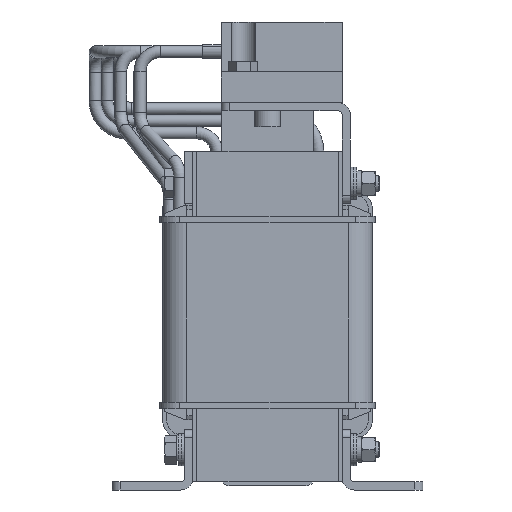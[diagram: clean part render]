
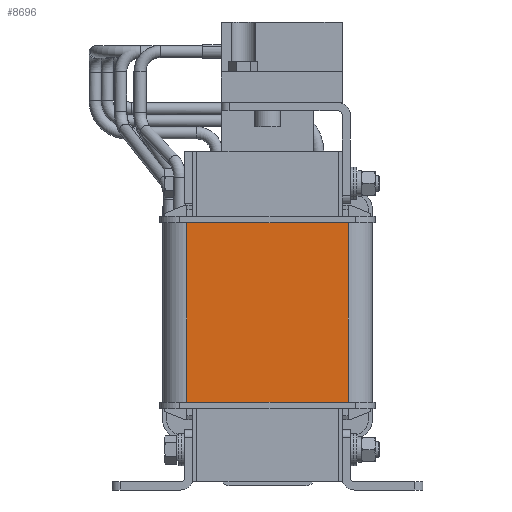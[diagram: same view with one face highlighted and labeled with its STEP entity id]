
A CAD part, left-side view. The second image highlights one B-rep face of the part: STEP entity #8696.
In plain terms, the highlighted planar face has unit normal (-1, 0, 0).
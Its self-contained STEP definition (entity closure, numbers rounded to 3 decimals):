
#8696=ADVANCED_FACE('',(#26258),#26260,.T.);
#26258=FACE_BOUND('',#26259,.T.);
#26259=EDGE_LOOP('',(#39579,#39580,#39581,#39582));
#26260=PLANE('',#26261);
#26261=AXIS2_PLACEMENT_3D('',#26262,#26263,#26264);
#26262=CARTESIAN_POINT('',(-46.523,-58.478,21.75));
#26263=DIRECTION('',(-1.,0.,0.));
#26264=DIRECTION('',(0.,0.,1.));
#39579=ORIENTED_EDGE('',*,*,#47750,.T.);
#39580=ORIENTED_EDGE('',*,*,#47758,.F.);
#39581=ORIENTED_EDGE('',*,*,#47742,.F.);
#39582=ORIENTED_EDGE('',*,*,#47759,.T.);
#47742=EDGE_CURVE('',#54072,#54065,#54074,.T.);
#47750=EDGE_CURVE('',#54087,#54085,#54088,.T.);
#47758=EDGE_CURVE('',#54065,#54085,#54098,.T.);
#47759=EDGE_CURVE('',#54072,#54087,#54099,.T.);
#54065=VERTEX_POINT('',#70785);
#54072=VERTEX_POINT('',#70801);
#54074=LINE('',#70806,#70807);
#54085=VERTEX_POINT('',#70831);
#54087=VERTEX_POINT('',#70836);
#54088=LINE('',#70837,#70838);
#54098=LINE('',#70864,#70865);
#54099=LINE('',#70867,#70868);
#70785=CARTESIAN_POINT('',(-46.523,-58.478,66.25));
#70801=CARTESIAN_POINT('',(-46.523,-18.488,66.25));
#70806=CARTESIAN_POINT('',(-46.523,-18.488,66.25));
#70807=VECTOR('',#70808,1.);
#70808=DIRECTION('',(0.,-1.,0.));
#70831=CARTESIAN_POINT('',(-46.523,-58.478,21.75));
#70836=CARTESIAN_POINT('',(-46.523,-18.488,21.75));
#70837=CARTESIAN_POINT('',(-46.523,-18.488,21.75));
#70838=VECTOR('',#70839,1.);
#70839=DIRECTION('',(0.,-1.,0.));
#70864=CARTESIAN_POINT('',(-46.523,-58.478,66.25));
#70865=VECTOR('',#70866,1.);
#70866=DIRECTION('',(0.,0.,-1.));
#70867=CARTESIAN_POINT('',(-46.523,-18.488,66.25));
#70868=VECTOR('',#70869,1.);
#70869=DIRECTION('',(0.,0.,-1.));
